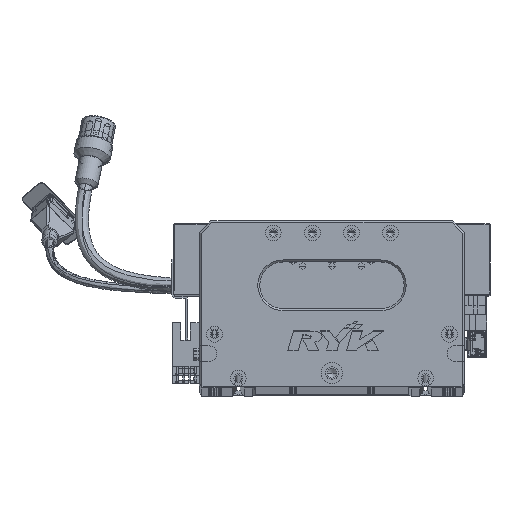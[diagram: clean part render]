
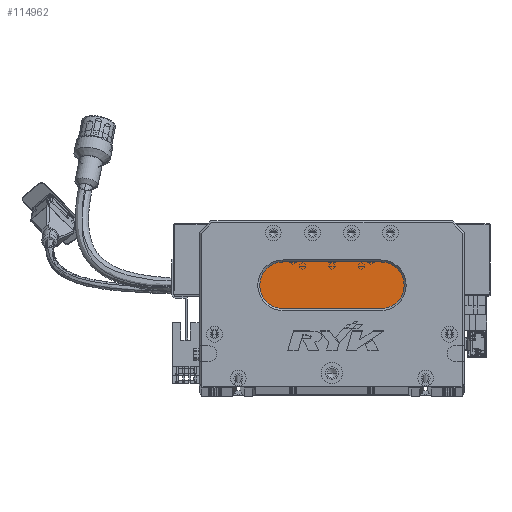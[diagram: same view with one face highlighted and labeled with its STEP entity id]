
A CAD part, top view. The second image highlights one B-rep face of the part: STEP entity #114962.
In plain terms, the highlighted planar face has unit normal (0, 0, 1) as drawn and (0, 0, -1) by its records, which use the part's own axes.
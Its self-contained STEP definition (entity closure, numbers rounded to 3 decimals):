
#69 = CARTESIAN_POINT ( 'NONE',  ( 93., 40., 13. ) ) ;
#1741 = VECTOR ( 'NONE', #104409, 1000. ) ;
#6914 = CARTESIAN_POINT ( 'NONE',  ( 93., 40., 13. ) ) ;
#9426 = FACE_OUTER_BOUND ( 'NONE', #66913, .T. ) ;
#12867 = DIRECTION ( 'NONE',  ( -1., 0., 0. ) ) ;
#27231 = DIRECTION ( 'NONE',  ( -1., 0., 0. ) ) ;
#30345 = VERTEX_POINT ( 'NONE', #35527 ) ;
#31243 = DIRECTION ( 'NONE',  ( 0., 0., -1. ) ) ;
#31572 = DIRECTION ( 'NONE',  ( 0., 0., -1. ) ) ;
#33127 = VERTEX_POINT ( 'NONE', #69 ) ;
#34315 = CIRCLE ( 'NONE', #119806, 12. ) ;
#35527 = CARTESIAN_POINT ( 'NONE',  ( 43., 64., 13. ) ) ;
#35978 = VERTEX_POINT ( 'NONE', #36403 ) ;
#36403 = CARTESIAN_POINT ( 'NONE',  ( 43., 40., 13. ) ) ;
#37961 = CARTESIAN_POINT ( 'NONE',  ( 93., 52., 13. ) ) ;
#41582 = CARTESIAN_POINT ( 'NONE',  ( 43., 52., 13. ) ) ;
#41600 = VECTOR ( 'NONE', #87274, 1000. ) ;
#44108 = DIRECTION ( 'NONE',  ( 0., 0., -1. ) ) ;
#47283 = ORIENTED_EDGE ( 'NONE', *, *, #58300, .T. ) ;
#52429 = VERTEX_POINT ( 'NONE', #61074 ) ;
#54975 = AXIS2_PLACEMENT_3D ( 'NONE', #41582, #31572, #12867 ) ;
#56334 = DIRECTION ( 'NONE',  ( 0., 0., -1. ) ) ;
#57826 = EDGE_CURVE ( 'NONE', #52429, #33127, #34315, .T. ) ;
#58300 = EDGE_CURVE ( 'NONE', #30345, #52429, #81042, .T. ) ;
#61074 = CARTESIAN_POINT ( 'NONE',  ( 93., 64., 13. ) ) ;
#62859 = ORIENTED_EDGE ( 'NONE', *, *, #79226, .T. ) ;
#64316 = CIRCLE ( 'NONE', #54975, 12. ) ;
#64866 = AXIS2_PLACEMENT_3D ( 'NONE', #65830, #44108, #104877 ) ;
#65830 = CARTESIAN_POINT ( 'NONE',  ( 93., 52., 13. ) ) ;
#66095 = ORIENTED_EDGE ( 'NONE', *, *, #99351, .T. ) ;
#66913 = EDGE_LOOP ( 'NONE', ( #80852, #66095, #125948, #62859, #47283 ) ) ;
#74422 = CARTESIAN_POINT ( 'NONE',  ( 93., 64., 13. ) ) ;
#79226 = EDGE_CURVE ( 'NONE', #106417, #30345, #64316, .T. ) ;
#80852 = ORIENTED_EDGE ( 'NONE', *, *, #57826, .T. ) ;
#81042 = LINE ( 'NONE', #74422, #1741 ) ;
#82564 = AXIS2_PLACEMENT_3D ( 'NONE', #107068, #56334, #105374 ) ;
#84472 = PLANE ( 'NONE',  #64866 ) ;
#85100 = LINE ( 'NONE', #6914, #41600 ) ;
#87274 = DIRECTION ( 'NONE',  ( -1., 0., 0. ) ) ;
#91509 = CARTESIAN_POINT ( 'NONE',  ( 31., 52., 13. ) ) ;
#94535 = CIRCLE ( 'NONE', #82564, 12. ) ;
#99351 = EDGE_CURVE ( 'NONE', #33127, #35978, #85100, .T. ) ;
#104409 = DIRECTION ( 'NONE',  ( 1., 0., 0. ) ) ;
#104877 = DIRECTION ( 'NONE',  ( -1., 0., 0. ) ) ;
#105374 = DIRECTION ( 'NONE',  ( -1., 0., 0. ) ) ;
#106417 = VERTEX_POINT ( 'NONE', #91509 ) ;
#107068 = CARTESIAN_POINT ( 'NONE',  ( 43., 52., 13. ) ) ;
#114962 = ADVANCED_FACE ( 'NONE', ( #9426 ), #84472, .T. ) ;
#116659 = EDGE_CURVE ( 'NONE', #35978, #106417, #94535, .T. ) ;
#119806 = AXIS2_PLACEMENT_3D ( 'NONE', #37961, #31243, #27231 ) ;
#125948 = ORIENTED_EDGE ( 'NONE', *, *, #116659, .T. ) ;
